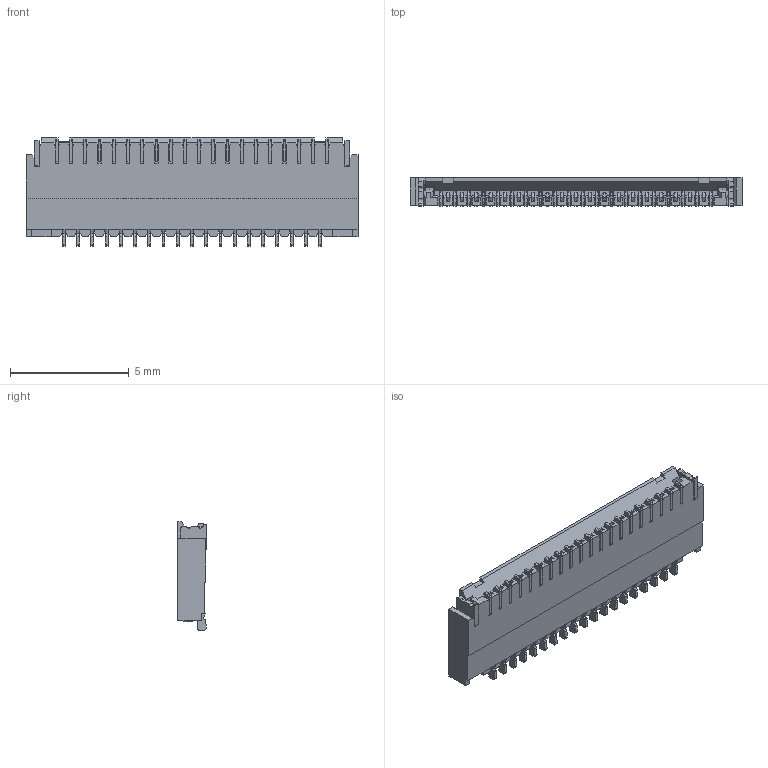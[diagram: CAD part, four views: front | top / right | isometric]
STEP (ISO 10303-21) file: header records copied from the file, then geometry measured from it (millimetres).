
FILE_DESCRIPTION((''),'2;1');
FILE_NAME('S-50515-039XX-XXX','2009-10-05T',('jameslen'),(''),'PRO/ENGINEER BY PARAMETRIC TECHNOLOGY CORPORATION, 2007450','PRO/ENGINEER BY PARAMETRIC TECHNOLOGY CORPORATION, 2007450','');
FILE_SCHEMA(('CONFIG_CONTROL_DESIGN'));
Products named in the file (1): S-50515-039XX-XXX
Bounding box: 14 x 1.2 x 4.56 mm (x, y, z)
Volume: 44.7 mm3; surface area: 549.2 mm2
Topology: 1 solids, 1 shells, 4034 faces, 13670 edges, 9150 vertices
Faces by surface type: plane 2482, cylinder 1400, extrusion 152
Entity records: 152711 total; most frequent: CARTESIAN_POINT 30381, ORIENTED_EDGE 27340, DIRECTION 24606, EDGE_CURVE 13670, VECTOR 10194, LINE 10042, VERTEX_POINT 9150, AXIS2_PLACEMENT_3D 7206
